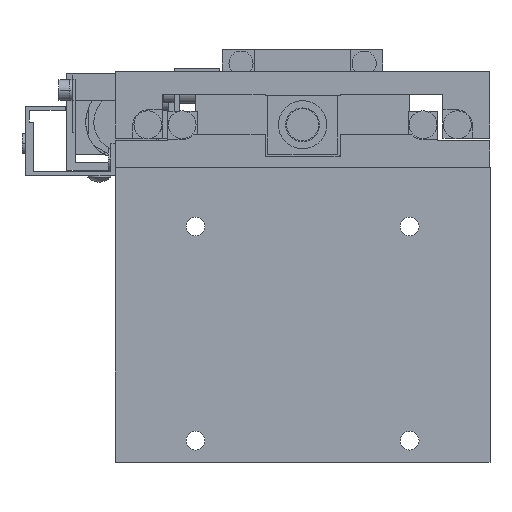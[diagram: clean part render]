
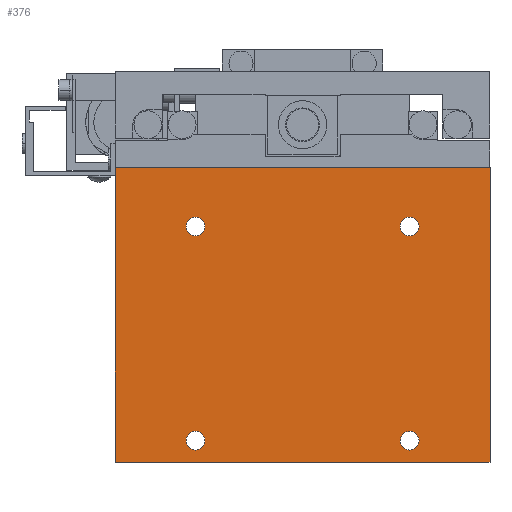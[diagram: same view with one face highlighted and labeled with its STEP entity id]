
A CAD part, front view. The second image highlights one B-rep face of the part: STEP entity #376.
In plain terms, the highlighted planar face has unit normal (0, -1, 0).
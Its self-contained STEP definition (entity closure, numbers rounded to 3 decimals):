
#376=ADVANCED_FACE('',(#1188,#1189,#1190,#1191,#1192),#1193,.F.);
#1188=FACE_BOUND('',#2916,.T.);
#1189=FACE_BOUND('',#2917,.T.);
#1190=FACE_BOUND('',#2918,.T.);
#1191=FACE_BOUND('',#2919,.T.);
#1192=FACE_OUTER_BOUND('',#2920,.T.);
#1193=PLANE('',#2921);
#2916=EDGE_LOOP('',(#4709,#4710));
#2917=EDGE_LOOP('',(#4711,#4712));
#2918=EDGE_LOOP('',(#4713,#4714));
#2919=EDGE_LOOP('',(#4715,#4716));
#2920=EDGE_LOOP('',(#4717,#4718,#4719,#4720));
#2921=AXIS2_PLACEMENT_3D('',#4721,#4722,#4723);
#4709=ORIENTED_EDGE('',*,*,#11142,.F.);
#4710=ORIENTED_EDGE('',*,*,#11093,.F.);
#4711=ORIENTED_EDGE('',*,*,#11143,.F.);
#4712=ORIENTED_EDGE('',*,*,#11125,.F.);
#4713=ORIENTED_EDGE('',*,*,#11144,.F.);
#4714=ORIENTED_EDGE('',*,*,#11133,.F.);
#4715=ORIENTED_EDGE('',*,*,#11145,.F.);
#4716=ORIENTED_EDGE('',*,*,#11129,.F.);
#4717=ORIENTED_EDGE('',*,*,#11146,.T.);
#4718=ORIENTED_EDGE('',*,*,#11147,.F.);
#4719=ORIENTED_EDGE('',*,*,#11148,.F.);
#4720=ORIENTED_EDGE('',*,*,#11139,.T.);
#4721=CARTESIAN_POINT('',(-35.0,0.0,-25.5));
#4722=DIRECTION('',(0.0,1.0,0.0));
#4723=DIRECTION('',(-1.0,0.0,0.0));
#11093=EDGE_CURVE('',#13134,#13130,#13136,.T.);
#11125=EDGE_CURVE('',#13198,#13194,#13200,.T.);
#11129=EDGE_CURVE('',#13206,#13202,#13208,.T.);
#11133=EDGE_CURVE('',#13214,#13210,#13216,.T.);
#11139=EDGE_CURVE('',#13228,#13226,#13229,.T.);
#11142=EDGE_CURVE('',#13130,#13134,#13233,.T.);
#11143=EDGE_CURVE('',#13194,#13198,#13234,.T.);
#11144=EDGE_CURVE('',#13210,#13214,#13235,.T.);
#11145=EDGE_CURVE('',#13202,#13206,#13236,.T.);
#11146=EDGE_CURVE('',#13226,#13237,#13238,.T.);
#11147=EDGE_CURVE('',#13239,#13237,#13240,.T.);
#11148=EDGE_CURVE('',#13228,#13239,#13241,.T.);
#13130=VERTEX_POINT('',#16482);
#13134=VERTEX_POINT('',#16487);
#13136=CIRCLE('',#16490,1.75);
#13194=VERTEX_POINT('',#16562);
#13198=VERTEX_POINT('',#16567);
#13200=CIRCLE('',#16570,1.75);
#13202=VERTEX_POINT('',#16572);
#13206=VERTEX_POINT('',#16577);
#13208=CIRCLE('',#16580,1.75);
#13210=VERTEX_POINT('',#16582);
#13214=VERTEX_POINT('',#16587);
#13216=CIRCLE('',#16590,1.75);
#13226=VERTEX_POINT('',#16602);
#13228=VERTEX_POINT('',#16605);
#13229=LINE('',#16606,#16607);
#13233=CIRCLE('',#16613,1.75);
#13234=CIRCLE('',#16614,1.75);
#13235=CIRCLE('',#16615,1.75);
#13236=CIRCLE('',#16616,1.75);
#13237=VERTEX_POINT('',#16617);
#13238=LINE('',#16618,#16619);
#13239=VERTEX_POINT('',#16620);
#13240=LINE('',#16621,#16622);
#13241=LINE('',#16623,#16624);
#16482=CARTESIAN_POINT('',(20.0,0.0,20.25));
#16487=CARTESIAN_POINT('',(20.0,0.0,16.75));
#16490=AXIS2_PLACEMENT_3D('',#21415,#21416,#21417);
#16562=CARTESIAN_POINT('',(-20.0,0.0,-19.75));
#16567=CARTESIAN_POINT('',(-20.0,0.0,-23.25));
#16570=AXIS2_PLACEMENT_3D('',#21479,#21480,#21481);
#16572=CARTESIAN_POINT('',(-20.0,0.0,20.25));
#16577=CARTESIAN_POINT('',(-20.0,0.0,16.75));
#16580=AXIS2_PLACEMENT_3D('',#21487,#21488,#21489);
#16582=CARTESIAN_POINT('',(20.0,0.0,-19.75));
#16587=CARTESIAN_POINT('',(20.0,0.0,-23.25));
#16590=AXIS2_PLACEMENT_3D('',#21495,#21496,#21497);
#16602=CARTESIAN_POINT('',(35.0,0.0,-25.5));
#16605=CARTESIAN_POINT('',(-35.0,0.0,-25.5));
#16606=CARTESIAN_POINT('',(-35.0,0.0,-25.5));
#16607=VECTOR('',#21507,1000.0);
#16613=AXIS2_PLACEMENT_3D('',#21510,#21511,#21512);
#16614=AXIS2_PLACEMENT_3D('',#21513,#21514,#21515);
#16615=AXIS2_PLACEMENT_3D('',#21516,#21517,#21518);
#16616=AXIS2_PLACEMENT_3D('',#21519,#21520,#21521);
#16617=CARTESIAN_POINT('',(35.0,0.0,29.5));
#16618=CARTESIAN_POINT('',(35.0,0.0,-25.5));
#16619=VECTOR('',#21522,1000.0);
#16620=CARTESIAN_POINT('',(-35.0,0.0,29.5));
#16621=CARTESIAN_POINT('',(-35.0,0.0,29.5));
#16622=VECTOR('',#21523,1000.0);
#16623=CARTESIAN_POINT('',(-35.0,0.0,-25.5));
#16624=VECTOR('',#21524,1000.0);
#21415=CARTESIAN_POINT('',(20.0,0.0,18.5));
#21416=DIRECTION('',(0.0,-1.0,0.0));
#21417=DIRECTION('',(0.0,0.0,1.0));
#21479=CARTESIAN_POINT('',(-20.0,0.0,-21.5));
#21480=DIRECTION('',(0.0,-1.0,0.0));
#21481=DIRECTION('',(0.0,0.0,1.0));
#21487=CARTESIAN_POINT('',(-20.0,0.0,18.5));
#21488=DIRECTION('',(0.0,-1.0,0.0));
#21489=DIRECTION('',(0.0,0.0,1.0));
#21495=CARTESIAN_POINT('',(20.0,0.0,-21.5));
#21496=DIRECTION('',(0.0,-1.0,0.0));
#21497=DIRECTION('',(0.0,0.0,1.0));
#21507=DIRECTION('',(1.0,0.0,0.0));
#21510=CARTESIAN_POINT('',(20.0,0.0,18.5));
#21511=DIRECTION('',(0.0,-1.0,0.0));
#21512=DIRECTION('',(0.0,0.0,1.0));
#21513=CARTESIAN_POINT('',(-20.0,0.0,-21.5));
#21514=DIRECTION('',(0.0,-1.0,0.0));
#21515=DIRECTION('',(0.0,0.0,1.0));
#21516=CARTESIAN_POINT('',(20.0,0.0,-21.5));
#21517=DIRECTION('',(0.0,-1.0,0.0));
#21518=DIRECTION('',(0.0,0.0,1.0));
#21519=CARTESIAN_POINT('',(-20.0,0.0,18.5));
#21520=DIRECTION('',(0.0,-1.0,0.0));
#21521=DIRECTION('',(0.0,0.0,1.0));
#21522=DIRECTION('',(0.0,0.0,1.0));
#21523=DIRECTION('',(1.0,0.0,0.0));
#21524=DIRECTION('',(0.0,0.0,1.0));
